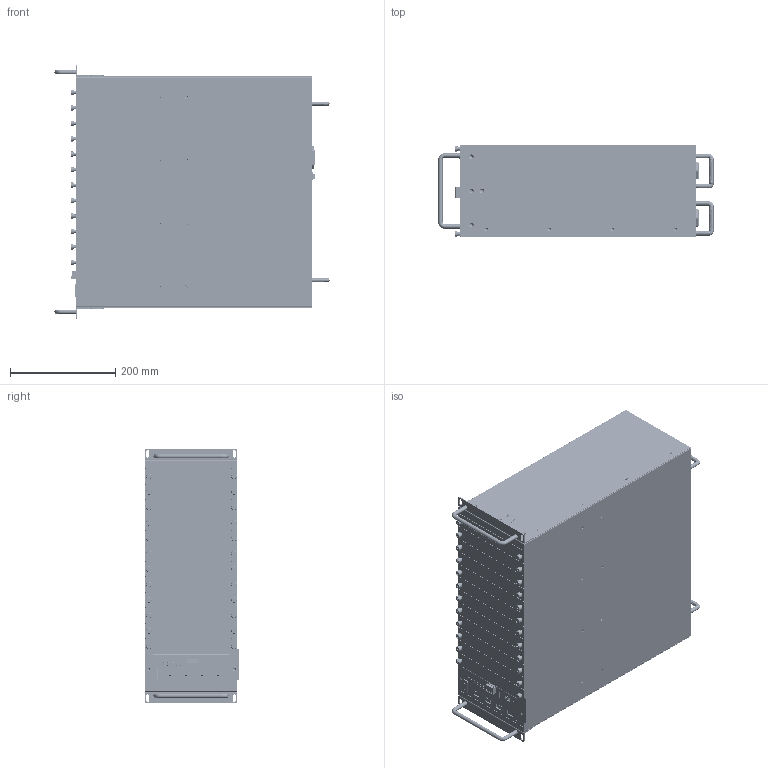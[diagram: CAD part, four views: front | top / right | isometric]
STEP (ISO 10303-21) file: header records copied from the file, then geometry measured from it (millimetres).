
FILE_DESCRIPTION((''),'2;1');
FILE_NAME('3D_ICS-G7752A-4XG-HV-HV','2014-09-10T',('Vincent_Huang'),(''),'PRO/ENGINEER BY PARAMETRIC TECHNOLOGY CORPORATION, 2004320','PRO/ENGINEER BY PARAMETRIC TECHNOLOGY CORPORATION, 2004320','');
FILE_SCHEMA(('CONFIG_CONTROL_DESIGN'));
Products named in the file (1): 3D_ICS-G7752A-4XG-HV-HV
Bounding box: 523.8 x 179.85 x 484 mm (x, y, z)
Surface area: 4458359.3 mm2 (no closed solid volume)
Topology: 0 solids, 33 shells, 28103 faces, 74609 edges, 48940 vertices
Faces by surface type: plane 18658, cylinder 7823, bspline 724, cone 512, torus 332, extrusion 28, sphere 26
Entity records: 954519 total; most frequent: CARTESIAN_POINT 249045, ORIENTED_EDGE 146194, DIRECTION 139809, EDGE_CURVE 74567, VECTOR 54867, LINE 54839, VERTEX_POINT 48937, AXIS2_PLACEMENT_3D 42471
